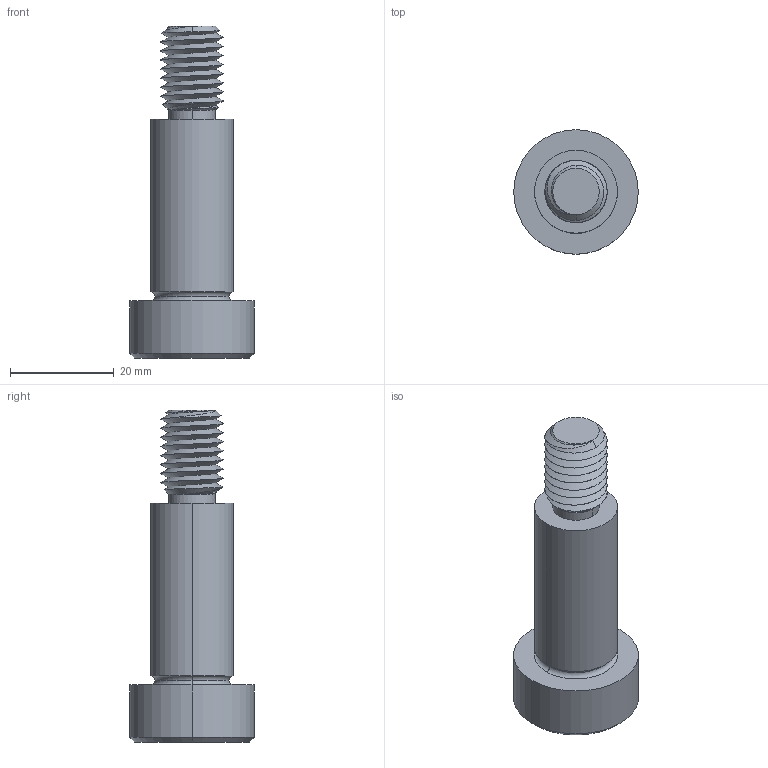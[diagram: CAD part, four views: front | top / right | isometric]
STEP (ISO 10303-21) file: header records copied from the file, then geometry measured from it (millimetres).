
FILE_DESCRIPTION (( 'STEP AP203' ), '1' );
FILE_NAME ('P0130.160-035-B2.step', '2021-11-09T22:13:53', ( '' ), ( '' ), 'SwSTEP 2.0', 'SolidWorks 2019', '' );
FILE_SCHEMA (( 'CONFIG_CONTROL_DESIGN' ));
Length unit declared in the file: millimetre
Products named in the file (1): P0130.160-035-B2
Bounding box: 24 x 24 x 64 mm (x, y, z)
Volume: 12941.6 mm3; surface area: 4802.4 mm2
Topology: 1 solids, 1 shells, 59 faces, 139 edges, 83 vertices
Faces by surface type: cylinder 22, plane 16, cone 15, torus 4, bspline 2
Entity records: 5164 total; most frequent: CARTESIAN_POINT 3839, ORIENTED_EDGE 274, DIRECTION 244, EDGE_CURVE 137, AXIS2_PLACEMENT_3D 98, VERTEX_POINT 83, EDGE_LOOP 62, FACE_OUTER_BOUND 59
